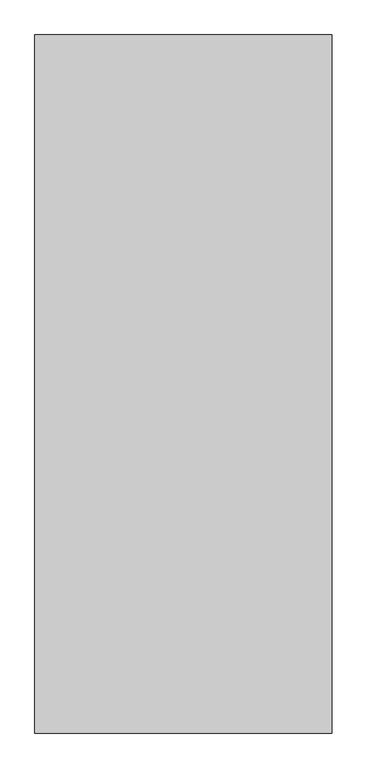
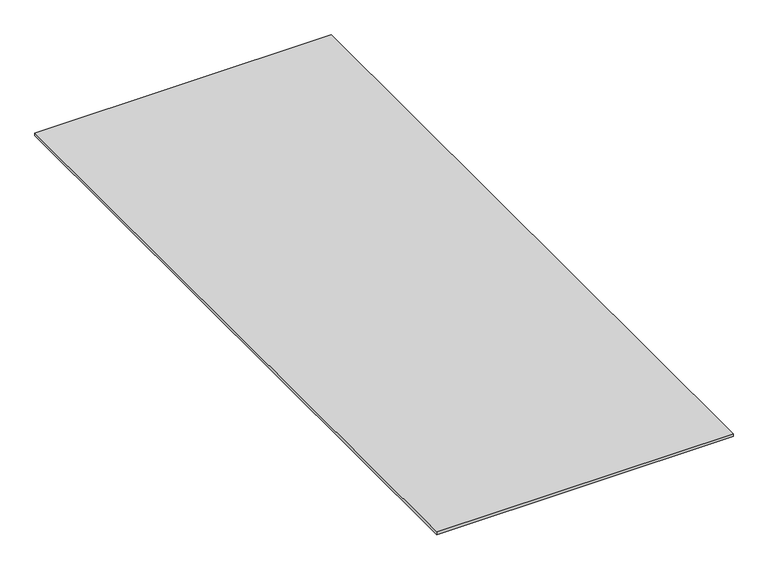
"""IFC4 building model written with IfcOpenShell, lengths in millimetres: proxy geometry, Wall-Panel-Kirei-Groovy_Panels : Groovy 3.0."""

from ifc_helpers import new_model, si_unit, origin, origin_with_axes, place, context, project, spatial, polyline, outline, extrude, source, transform, mapped, element, save


def specialty_equipment_ca0f919e(model_context):
    return source(origin(), model_context, "Body", "SweptSolid", [
        extrude(outline(polyline([(558.8, -1371.6), (-609.6, -1371.6), (-609.6, 1371.6), (558.8, 1371.6), (558.8, -1371.6)])), origin_with_axes(), (0.0, 0.0, 1.0), 12.0054687),
    ])


if __name__ == "__main__":
    model = new_model("IFC4")
    model_context = context("Model", 3, world=origin())
    ifc_project = project(units=[si_unit("LENGTHUNIT", "METRE", prefix="MILLI")], contexts=[model_context])
    site = spatial("IfcSite", under=ifc_project)
    building = spatial("IfcBuilding", under=site)
    placement = place(None, origin())
    specialty_equipment_shape = specialty_equipment_ca0f919e(model_context)
    element("IfcBuildingElementProxy", 1, Name="Wall-Panel-Kirei-Groovy_Panels : Groovy 3.0", ObjectType="Wall-Panel-Kirei-Groovy_Panels : Groovy 3.0", at=placement, inside=building, context=model_context, shape_type="MappedRepresentation", body=[
        mapped(specialty_equipment_shape, transform((0.0, 0.0, 0.0), x_axis=(1.0, 0.0, 0.0), y_axis=(0.0, 1.0, 0.0), z_axis=(0.0, 0.0, 1.0))),
    ])
    save(model, "model.ifc")
